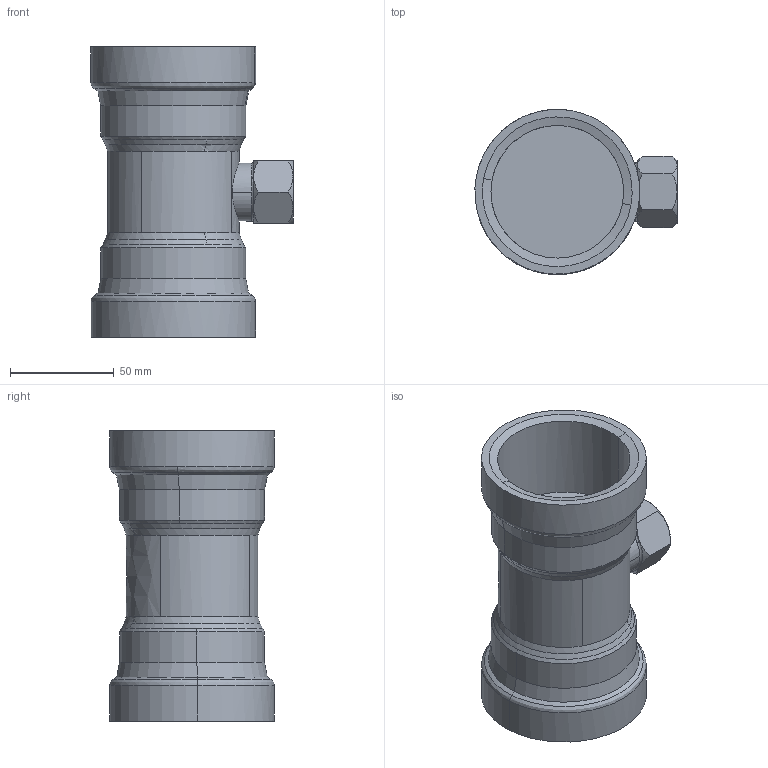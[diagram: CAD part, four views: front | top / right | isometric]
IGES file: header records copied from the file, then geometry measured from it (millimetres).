
Start section: 3D InterOp IGES (Version 25 0 1), Spatial Corp. Copyright (c) 1999-2007.
Global section: file name: pim0004510.igs; native system: Spatial Corp.; preprocessor: 3D InterOp ACIS/IGES; author: Cad-Pim; organization: TransMagic, Inc.; date: 20150430.081510; units: millimetre
Bounding box: 97.46 x 79.5 x 140 mm (x, y, z)
Volume: 288096.3 mm3; surface area: 63108.4 mm2
Topology: 1 solids, 1 shells, 76 faces, 212 edges, 135 vertices
Faces by surface type: bspline 40, cylinder 18, cone 18
